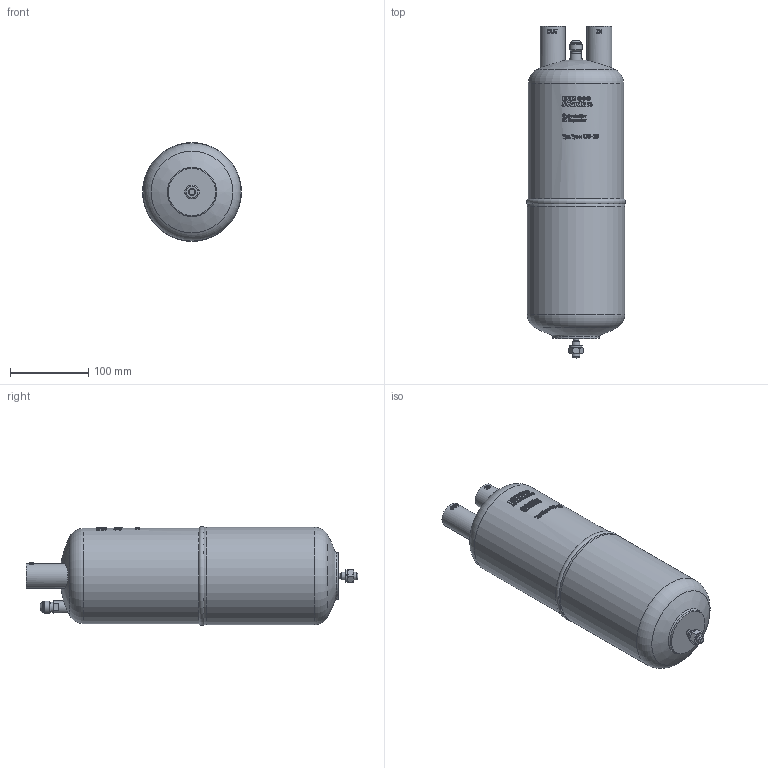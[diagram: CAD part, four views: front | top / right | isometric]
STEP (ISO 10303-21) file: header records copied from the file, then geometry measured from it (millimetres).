
FILE_DESCRIPTION(/* description */ (''),/* implementation_level */ '2;1');
FILE_NAME(/* name */ 'P:\OS\OS-28\OS-28.stp',/* time_stamp */ '2017-10-04T08:00:31+02:00',/* author */ ('neufeld'),/* organization */ (''),/* preprocessor_version */ 'ST-DEVELOPER v16.1',/* originating_system */ 'Autodesk Inventor 2016',/* authorisation */ '');
FILE_SCHEMA (('AUTOMOTIVE_DESIGN { 1 0 10303 214 3 1 1 }'));
Length unit declared in the file: millimetre
Products named in the file (2): OS-28; OS-28_1
Assembly tree (1 placements, depth 2):
  OS-28_1
    OS-28
Bounding box: 126.76 x 425.3 x 126.76 mm (x, y, z)
Volume: 4100970.1 mm3; surface area: 167782 mm2
Topology: 1 solids, 1 shells, 986 faces, 2670 edges, 1775 vertices
Faces by surface type: plane 506, bspline 368, cylinder 99, cone 7, torus 5, sphere 1
Full cylindrical faces by diameter (mm): 7 x1, 7.2 x1, 10 x2, 12.9 x1, 13.5 x1, 15.7 x1, 16 x1, 28.7 x2, 32 x2, 60 x1, 122 x1, 125 x1
Entity records: 38592 total; most frequent: CARTESIAN_POINT 15810, ORIENTED_EDGE 5260, DIRECTION 3791, EDGE_CURVE 2630, VERTEX_POINT 1764, AXIS2_PLACEMENT_3D 1290, LINE 1211, VECTOR 1211
